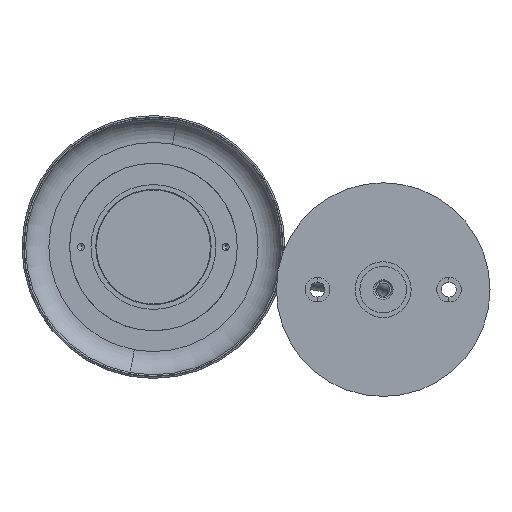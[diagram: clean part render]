
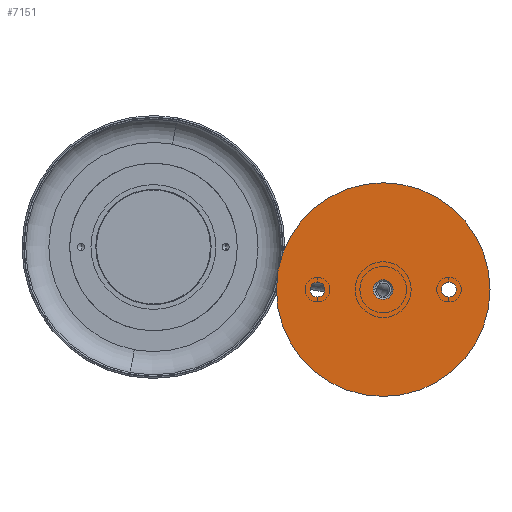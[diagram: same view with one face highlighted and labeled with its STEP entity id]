
A CAD part, front view. The second image highlights one B-rep face of the part: STEP entity #7151.
In plain terms, the highlighted planar face has unit normal (0, -1, 0).
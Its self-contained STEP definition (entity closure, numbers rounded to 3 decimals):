
#8 = EDGE_CURVE ( 'NONE', #5053, #6476, #3023, .T. ) ;
#151 = EDGE_CURVE ( 'NONE', #4417, #7119, #3754, .T. ) ;
#154 = VERTEX_POINT ( 'NONE', #4390 ) ;
#535 = CARTESIAN_POINT ( 'NONE',  ( 0., 0., 0. ) ) ;
#544 = AXIS2_PLACEMENT_3D ( 'NONE', #1589, #5747, #5722 ) ;
#579 = PLANE ( 'NONE',  #1542 ) ;
#654 = EDGE_CURVE ( 'NONE', #154, #1430, #1773, .T. ) ;
#685 = ORIENTED_EDGE ( 'NONE', *, *, #2359, .T. ) ;
#745 = CARTESIAN_POINT ( 'NONE',  ( -20., 0., 0. ) ) ;
#885 = AXIS2_PLACEMENT_3D ( 'NONE', #535, #6389, #4684 ) ;
#983 = CARTESIAN_POINT ( 'NONE',  ( 0., 0., -32.5 ) ) ;
#1187 = ORIENTED_EDGE ( 'NONE', *, *, #5069, .T. ) ;
#1385 = CIRCLE ( 'NONE', #5398, 2.25 ) ;
#1401 = FACE_BOUND ( 'NONE', #1535, .T. ) ;
#1430 = VERTEX_POINT ( 'NONE', #7210 ) ;
#1535 = EDGE_LOOP ( 'NONE', ( #685, #1187 ) ) ;
#1542 = AXIS2_PLACEMENT_3D ( 'NONE', #5158, #3422, #6275 ) ;
#1589 = CARTESIAN_POINT ( 'NONE',  ( 0., 0., 0. ) ) ;
#1598 = FACE_BOUND ( 'NONE', #4248, .T. ) ;
#1773 = CIRCLE ( 'NONE', #5863, 2.25 ) ;
#1949 = CARTESIAN_POINT ( 'NONE',  ( 0., 0., 0. ) ) ;
#2044 = CIRCLE ( 'NONE', #3940, 2.25 ) ;
#2139 = AXIS2_PLACEMENT_3D ( 'NONE', #3624, #3641, #6528 ) ;
#2359 = EDGE_CURVE ( 'NONE', #2448, #3861, #3798, .T. ) ;
#2372 = CARTESIAN_POINT ( 'NONE',  ( 0., 0., -3. ) ) ;
#2448 = VERTEX_POINT ( 'NONE', #2372 ) ;
#2539 = CARTESIAN_POINT ( 'NONE',  ( 20., 0., 0. ) ) ;
#2589 = CARTESIAN_POINT ( 'NONE',  ( 20., 0., 0. ) ) ;
#2924 = EDGE_LOOP ( 'NONE', ( #4177, #6110 ) ) ;
#3023 = CIRCLE ( 'NONE', #2139, 32.5 ) ;
#3151 = DIRECTION ( 'NONE',  ( 0., 0., 1. ) ) ;
#3165 = DIRECTION ( 'NONE',  ( 0., 1., 0. ) ) ;
#3189 = DIRECTION ( 'NONE',  ( 0., 0., 1. ) ) ;
#3422 = DIRECTION ( 'NONE',  ( 0., -1., 0. ) ) ;
#3624 = CARTESIAN_POINT ( 'NONE',  ( 0., 0., 0. ) ) ;
#3641 = DIRECTION ( 'NONE',  ( 0., -1., 0. ) ) ;
#3716 = DIRECTION ( 'NONE',  ( 0., 1., 0. ) ) ;
#3754 = CIRCLE ( 'NONE', #6857, 2.25 ) ;
#3762 = DIRECTION ( 'NONE',  ( 0., 0., 1. ) ) ;
#3798 = CIRCLE ( 'NONE', #6843, 3. ) ;
#3861 = VERTEX_POINT ( 'NONE', #7279 ) ;
#3940 = AXIS2_PLACEMENT_3D ( 'NONE', #2539, #6677, #3151 ) ;
#3951 = EDGE_LOOP ( 'NONE', ( #6287, #4811 ) ) ;
#4177 = ORIENTED_EDGE ( 'NONE', *, *, #8, .T. ) ;
#4248 = EDGE_LOOP ( 'NONE', ( #7082, #7565 ) ) ;
#4390 = CARTESIAN_POINT ( 'NONE',  ( 20., 0., -2.25 ) ) ;
#4417 = VERTEX_POINT ( 'NONE', #5543 ) ;
#4559 = CARTESIAN_POINT ( 'NONE',  ( 0., 0., 32.5 ) ) ;
#4596 = CARTESIAN_POINT ( 'NONE',  ( -20., 0., 0. ) ) ;
#4684 = DIRECTION ( 'NONE',  ( 0., 0., -1. ) ) ;
#4811 = ORIENTED_EDGE ( 'NONE', *, *, #654, .T. ) ;
#5053 = VERTEX_POINT ( 'NONE', #983 ) ;
#5069 = EDGE_CURVE ( 'NONE', #3861, #2448, #5527, .T. ) ;
#5110 = FACE_OUTER_BOUND ( 'NONE', #2924, .T. ) ;
#5158 = CARTESIAN_POINT ( 'NONE',  ( 0., 0., 0. ) ) ;
#5398 = AXIS2_PLACEMENT_3D ( 'NONE', #4596, #5809, #6429 ) ;
#5464 = DIRECTION ( 'NONE',  ( 0., 1., 0. ) ) ;
#5527 = CIRCLE ( 'NONE', #544, 3. ) ;
#5543 = CARTESIAN_POINT ( 'NONE',  ( -20., 0., -2.25 ) ) ;
#5662 = EDGE_CURVE ( 'NONE', #7119, #4417, #1385, .T. ) ;
#5722 = DIRECTION ( 'NONE',  ( 0., 0., -1. ) ) ;
#5747 = DIRECTION ( 'NONE',  ( 0., 1., 0. ) ) ;
#5809 = DIRECTION ( 'NONE',  ( 0., 1., 0. ) ) ;
#5863 = AXIS2_PLACEMENT_3D ( 'NONE', #2589, #3165, #3189 ) ;
#5919 = CARTESIAN_POINT ( 'NONE',  ( -20., 0., 2.25 ) ) ;
#5930 = EDGE_CURVE ( 'NONE', #6476, #5053, #7037, .T. ) ;
#6071 = DIRECTION ( 'NONE',  ( 0., 0., -1. ) ) ;
#6110 = ORIENTED_EDGE ( 'NONE', *, *, #5930, .T. ) ;
#6275 = DIRECTION ( 'NONE',  ( 0., 0., -1. ) ) ;
#6287 = ORIENTED_EDGE ( 'NONE', *, *, #6607, .T. ) ;
#6389 = DIRECTION ( 'NONE',  ( 0., -1., 0. ) ) ;
#6429 = DIRECTION ( 'NONE',  ( 0., 0., 1. ) ) ;
#6476 = VERTEX_POINT ( 'NONE', #4559 ) ;
#6528 = DIRECTION ( 'NONE',  ( 0., 0., -1. ) ) ;
#6607 = EDGE_CURVE ( 'NONE', #1430, #154, #2044, .T. ) ;
#6677 = DIRECTION ( 'NONE',  ( 0., 1., 0. ) ) ;
#6843 = AXIS2_PLACEMENT_3D ( 'NONE', #1949, #5464, #6071 ) ;
#6857 = AXIS2_PLACEMENT_3D ( 'NONE', #745, #3716, #3762 ) ;
#7037 = CIRCLE ( 'NONE', #885, 32.5 ) ;
#7054 = FACE_BOUND ( 'NONE', #3951, .T. ) ;
#7082 = ORIENTED_EDGE ( 'NONE', *, *, #5662, .T. ) ;
#7119 = VERTEX_POINT ( 'NONE', #5919 ) ;
#7151 = ADVANCED_FACE ( 'NONE', ( #1401, #1598, #7054, #5110 ), #579, .T. ) ;
#7210 = CARTESIAN_POINT ( 'NONE',  ( 20., 0., 2.25 ) ) ;
#7279 = CARTESIAN_POINT ( 'NONE',  ( 0., 0., 3. ) ) ;
#7565 = ORIENTED_EDGE ( 'NONE', *, *, #151, .T. ) ;
